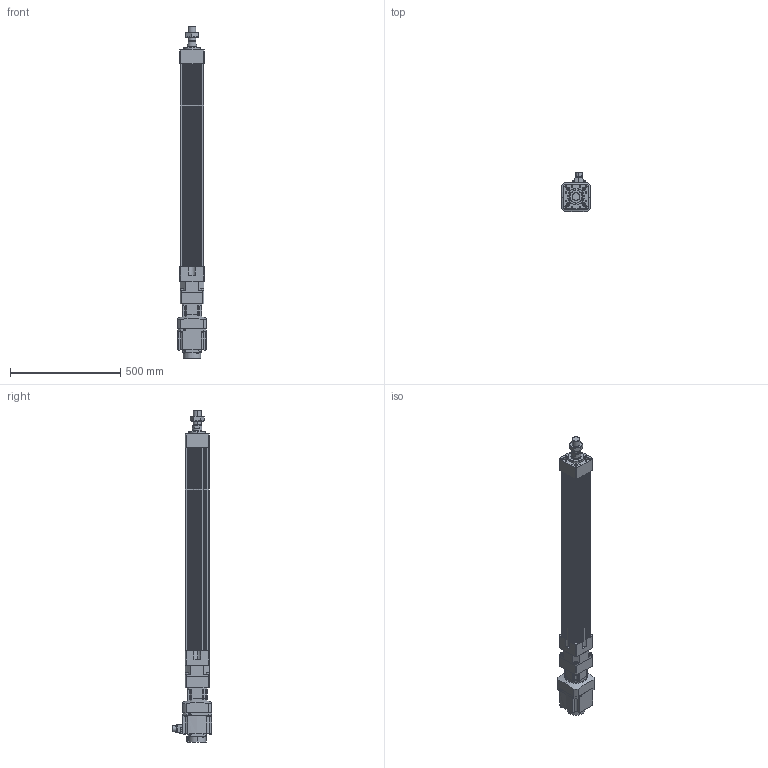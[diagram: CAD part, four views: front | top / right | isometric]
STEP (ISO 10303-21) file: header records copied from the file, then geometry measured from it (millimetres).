
FILE_DESCRIPTION (( 'STEP AP203' ), '1' );
FILE_NAME ('HES110NS(HS)-S750-W010G00-M.STEP', '2023-01-27T05:16:24', ( 'tms' ), ( '' ), 'SwSTEP 2.0', 'SolidWorks 2013', '' );
FILE_SCHEMA (( 'CONFIG_CONTROL_DESIGN' ));
Length unit declared in the file: millimetre
Products named in the file (8): HG-SR102; M36X1.5P; HES110-S750-G090; HES110NS(HS)-S750-W010G00-M; P0401301004; HES110 ROD M ST750; AB090-003[HG-SR102B]; AB0901
Assembly tree (7 placements, depth 3):
  HES110NS(HS)-S750-W010G00-M
    HES110-S750-G090
    M36X1.5P
    HES110 ROD M ST750
    AB090-003[HG-SR102B]
      AB0901
      P0401301004
    HG-SR102
Bounding box: 130 x 177.49 x 1508.5 mm (x, y, z)
Volume: 9579365.1 mm3; surface area: 1356990.3 mm2
Topology: 4 solids, 15 shells, 1197 faces, 3018 edges, 1947 vertices
Faces by surface type: plane 550, cylinder 535, cone 100, bspline 8, torus 4
Entity records: 37761 total; most frequent: CARTESIAN_POINT 7330, DIRECTION 6511, ORIENTED_EDGE 5944, EDGE_CURVE 2982, AXIS2_PLACEMENT_3D 2399, VERTEX_POINT 1947, LINE 1713, VECTOR 1713
